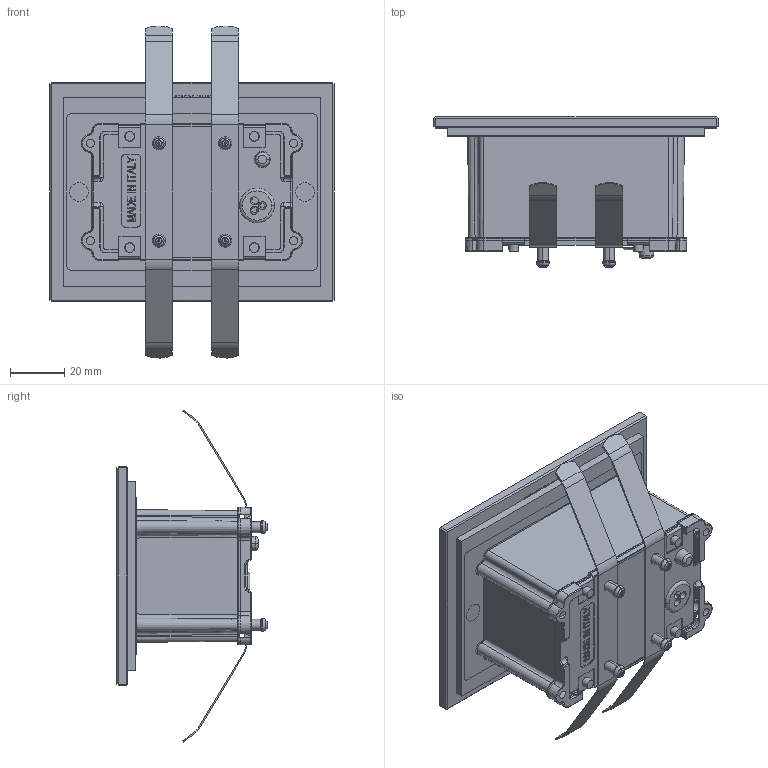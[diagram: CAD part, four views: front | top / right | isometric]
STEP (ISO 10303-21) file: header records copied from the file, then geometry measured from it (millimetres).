
FILE_DESCRIPTION((''),'2;1');
FILE_NAME('VERSIONE-CARTONGESSO_SW0001','2025-07-29T10:07:07',('Piccioli'),(''),'CREO PARAMETRIC BY PTC INC, 2025010','CREO PARAMETRIC BY PTC INC, 2025010','');
FILE_SCHEMA(('CONFIG_CONTROL_DESIGN'));
Length unit declared in the file: millimetre
Products named in the file (1): VERSIONE-CARTONGESSO_SW0001
Bounding box: 105 x 55.44 x 122.61 mm (x, y, z)
Surface area: 44960.5 mm2 (no closed solid volume)
Topology: 0 solids, 47 shells, 307 faces, 1386 edges, 1107 vertices
Faces by surface type: plane 126, cylinder 66, cone 55, bspline 32, torus 28
Entity records: 18302 total; most frequent: CARTESIAN_POINT 7651, DIRECTION 2113, ORIENTED_EDGE 1885, EDGE_CURVE 1386, VERTEX_POINT 1107, VECTOR 733, LINE 733, AXIS2_PLACEMENT_3D 690
